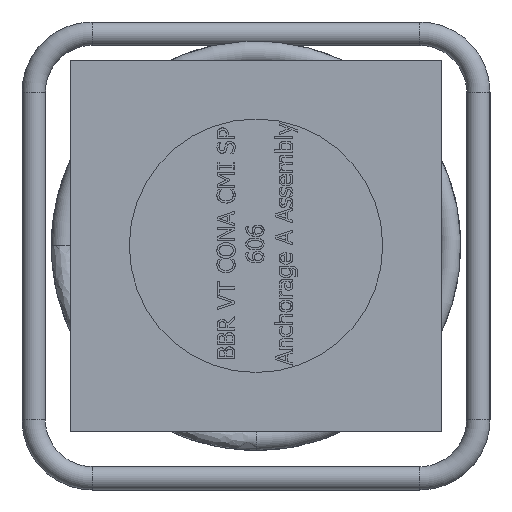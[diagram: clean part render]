
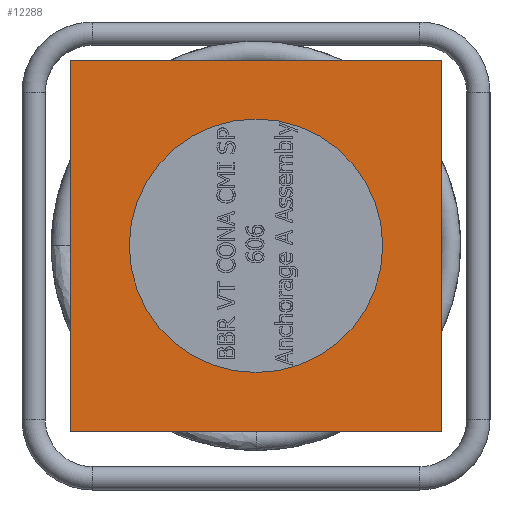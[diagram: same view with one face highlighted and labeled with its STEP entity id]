
A CAD part, left-side view. The second image highlights one B-rep face of the part: STEP entity #12288.
In plain terms, the highlighted planar face has unit normal (-1, 0, 0).
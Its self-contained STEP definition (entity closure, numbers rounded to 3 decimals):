
#1933=LINE('',#23872,#2959);
#1937=LINE('',#23879,#2963);
#1940=LINE('',#23884,#2966);
#1943=LINE('',#23888,#2969);
#2959=VECTOR('',#14420,190.);
#2963=VECTOR('',#14426,190.);
#2966=VECTOR('',#14431,190.);
#2969=VECTOR('',#14436,190.);
#3272=PLANE('',#12666);
#3377=FACE_BOUND('',#4745,.T.);
#4021=FACE_OUTER_BOUND('',#4744,.T.);
#4744=EDGE_LOOP('',(#10950,#10951,#10952,#10953));
#4745=EDGE_LOOP('',(#10954));
#4804=CIRCLE('',#12648,65.);
#5923=VERTEX_POINT('',#21747);
#5939=VERTEX_POINT('',#23870);
#5940=VERTEX_POINT('',#23871);
#5942=VERTEX_POINT('',#23878);
#5943=VERTEX_POINT('',#23883);
#7591=EDGE_CURVE('',#5923,#5923,#4804,.T.);
#7609=EDGE_CURVE('',#5939,#5940,#1933,.T.);
#7613=EDGE_CURVE('',#5940,#5942,#1937,.T.);
#7616=EDGE_CURVE('',#5942,#5943,#1940,.T.);
#7619=EDGE_CURVE('',#5943,#5939,#1943,.T.);
#10950=ORIENTED_EDGE('',*,*,#7619,.T.);
#10951=ORIENTED_EDGE('',*,*,#7609,.T.);
#10952=ORIENTED_EDGE('',*,*,#7613,.T.);
#10953=ORIENTED_EDGE('',*,*,#7616,.T.);
#10954=ORIENTED_EDGE('',*,*,#7591,.T.);
#12288=ADVANCED_FACE('',(#4021,#3377),#3272,.T.);
#12648=AXIS2_PLACEMENT_3D('',#21748,#14384,#14385);
#12666=AXIS2_PLACEMENT_3D('',#23890,#14438,#14439);
#14384=DIRECTION('center_axis',(1.,0.,0.));
#14385=DIRECTION('ref_axis',(0.,0.,
1.));
#14420=DIRECTION('',(0.,0.,-1.));
#14426=DIRECTION('',(0.,-1.,0.));
#14431=DIRECTION('',(0.,0.,1.));
#14436=DIRECTION('',(0.,1.,0.));
#14438=DIRECTION('center_axis',(-1.,0.,0.));
#14439=DIRECTION('ref_axis',(0.,0.,-1.));
#21747=CARTESIAN_POINT('',(-112.151,-65.,5.253));
#21748=CARTESIAN_POINT('Origin',(-112.151,0.,
5.253));
#23870=CARTESIAN_POINT('',(-112.151,95.,100.253));
#23871=CARTESIAN_POINT('',(-112.151,95.,-89.747));
#23872=CARTESIAN_POINT('',(-112.151,95.,100.253));
#23878=CARTESIAN_POINT('',(-112.151,-95.,-89.747));
#23879=CARTESIAN_POINT('',(-112.151,95.,-89.747));
#23883=CARTESIAN_POINT('',(-112.151,-95.,100.253));
#23884=CARTESIAN_POINT('',(-112.151,-95.,-89.747));
#23888=CARTESIAN_POINT('',(-112.151,-95.,100.253));
#23890=CARTESIAN_POINT('Origin',(-112.151,0.,5.253));
